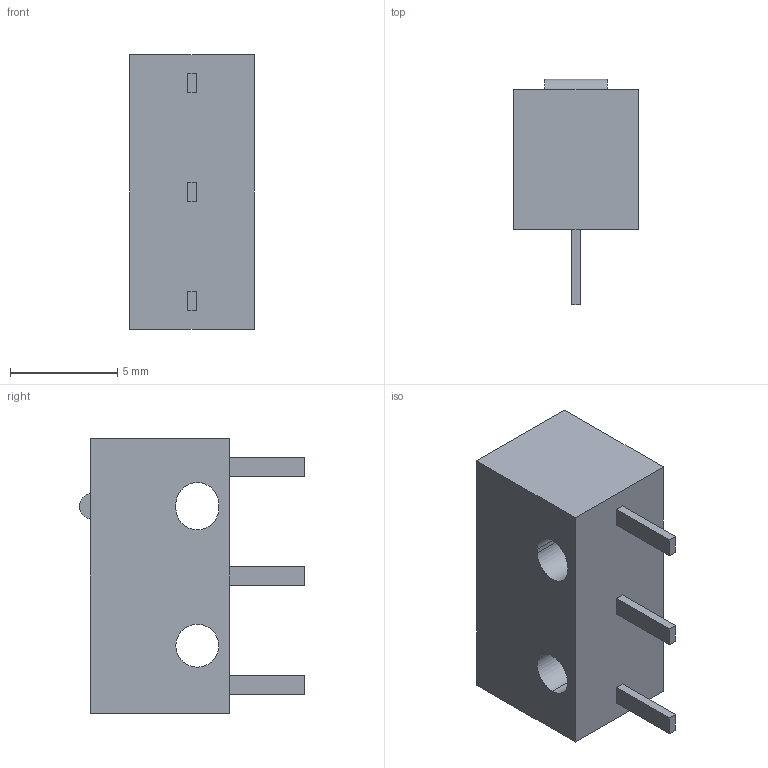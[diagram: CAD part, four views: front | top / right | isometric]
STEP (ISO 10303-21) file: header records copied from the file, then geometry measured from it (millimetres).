
FILE_DESCRIPTION (( 'STEP AP214' ), '1' );
FILE_NAME ('Mikroschalter_omron_D2F.STEP', '2009-06-25T17:28:38', ( 'RTide' ), ( 'TIDE' ), 'SwSTEP 2.0', 'SolidWorks 2010', '' );
FILE_SCHEMA (( 'AUTOMOTIVE_DESIGN' ));
Length unit declared in the file: millimetre
Products named in the file (1): Mikroschalter_omron_D2F
Bounding box: 5.8 x 10.5 x 12.8 mm (x, y, z)
Volume: 448.9 mm3; surface area: 481.8 mm2
Topology: 1 solids, 1 shells, 31 faces, 75 edges, 50 vertices
Faces by surface type: plane 25, cylinder 6
Entity records: 1141 total; most frequent: CARTESIAN_POINT 157, DIRECTION 151, ORIENTED_EDGE 150, EDGE_CURVE 75, VECTOR 63, LINE 63, VERTEX_POINT 50, AXIS2_PLACEMENT_3D 44
